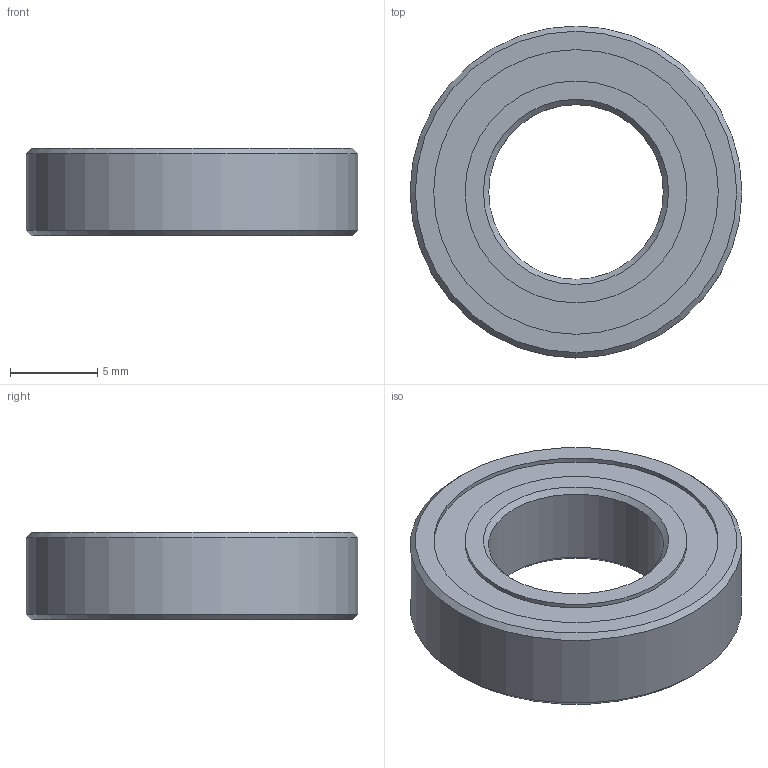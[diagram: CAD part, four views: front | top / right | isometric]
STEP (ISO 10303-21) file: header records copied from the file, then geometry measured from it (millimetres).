
FILE_DESCRIPTION(('Open CASCADE Model'),'2;1');
FILE_NAME('14_Bearing_6800ZZ_Input_Rear','2026-10-20T19:44:38',('Author' ),('Open CASCADE'),'Open CASCADE STEP processor 8.0','build123d', 'Unknown');
FILE_SCHEMA(('AUTOMOTIVE_DESIGN { 1 0 10303 214 1 1 1 1 }'));
Length unit declared in the file: millimetre
Products named in the file (2): 14_Bearing_6800ZZ_Input_Rear
Assembly tree (1 placements, depth 2):
  14_Bearing_6800ZZ_Input_Rear
    14_Bearing_6800ZZ_Input_Rear
Bounding box: 19 x 19 x 5 mm (x, y, z)
Volume: 975.7 mm3; surface area: 879 mm2
Topology: 1 solids, 1 shells, 16 faces, 26 edges, 16 vertices
Faces by surface type: cylinder 6, plane 6, cone 4
Full cylindrical faces by diameter (mm): 10 x1, 12.7 x2, 16.3 x2, 19 x1
Entity records: 760 total; most frequent: DIRECTION 122, CARTESIAN_POINT 120, ORIENTED_EDGE 52, PCURVE 52, DEFINITIONAL_REPRESENTATION 52, LINE 42, VECTOR 42, AXIS2_PLACEMENT_3D 34
